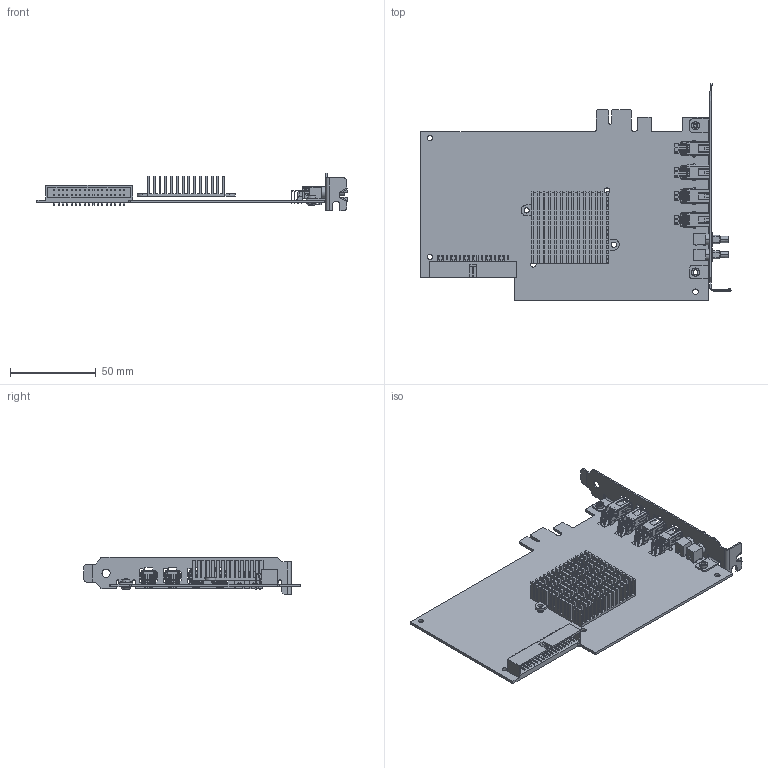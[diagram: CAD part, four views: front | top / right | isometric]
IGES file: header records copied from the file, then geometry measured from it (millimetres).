
Start section:  PTC IGES file: cu_pcie-8510-4ch.igs
Global section: file name: cu_pcie-8510-4ch.igs; native system: Creo Parametric by PTC Inc.; preprocessor: 2015380; author: huydo; organization: Unknown; date: 20170815.132001; units: inch
Bounding box: 180.92 x 126.32 x 21.59 mm (x, y, z)
Surface area: 64156.7 mm2 (no closed solid volume)
Topology: 0 solids, 0 shells, 4466 faces, 25688 edges, 25663 vertices
Faces by surface type: bspline 3296, revolution 1167, extrusion 3
